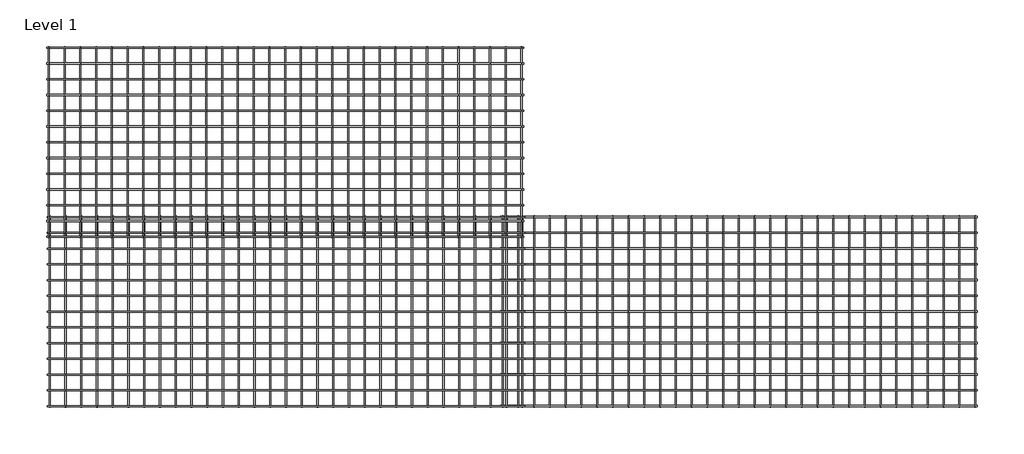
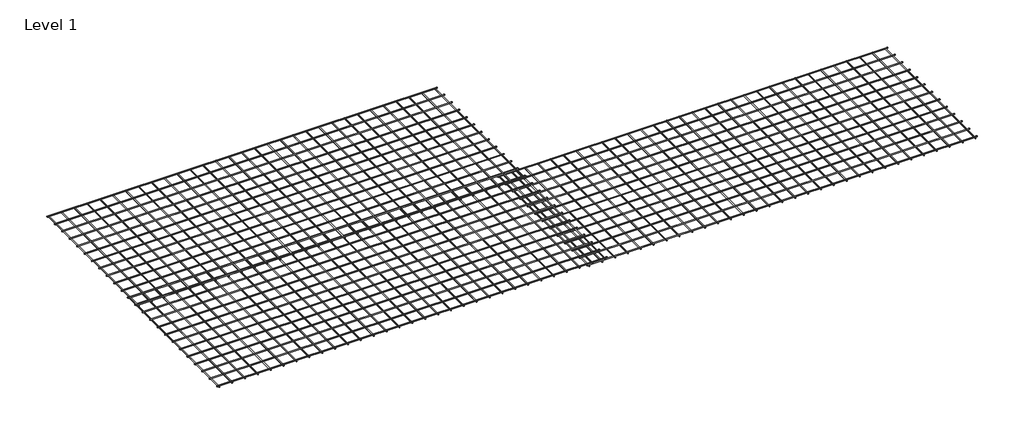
# One storey: 3 proxies.
"""IFC4 building model written with IfcOpenShell, lengths in millimetres."""

from ifc_helpers import new_model, si_unit, origin, place, context, project, spatial, transform, mapped, element, save
from components import united_steel_ductile_se72_large_mesh_united_steel_ductile_d334bcff

model = new_model("IFC4")

# Units and contexts
model_context = context("Model", 3, world=origin())
ifc_project = project(units=[si_unit("LENGTHUNIT", "METRE", prefix="MILLI")], contexts=[model_context])

# Site, building, storey
site = spatial("IfcSite", under=ifc_project)
building = spatial("IfcBuilding", under=site)
storey = spatial("IfcBuildingStorey", under=building, Name="Level 1", Elevation=0.0)

# Proxies
placement = place(None, origin())
united_steel_ductile_se72_large_mesh_united_steel_ductile_shape = united_steel_ductile_se72_large_mesh_united_steel_ductile_d334bcff(model_context)
element("IfcBuildingElementProxy", 1, Name="United Steel Ductile SE72 Large Mesh : United Steel Ductile SE72 Large Mesh", ObjectType="United Steel Ductile SE72 Large Mesh : United Steel Ductile SE72 Large Mesh", at=placement, inside=storey, context=model_context, shape_type="MappedRepresentation", body=[
    mapped(united_steel_ductile_se72_large_mesh_united_steel_ductile_shape, transform((5496.2856589, 2141.0032499, 76.875), x_axis=(1.0, 0.0, 0.0), y_axis=(0.0, 1.0, 0.0), z_axis=(0.0, 0.0, 1.0))),
])
element("IfcBuildingElementProxy", 2, Name="United Steel Ductile SE72 Large Mesh : United Steel Ductile SE72 Large Mesh", ObjectType="United Steel Ductile SE72 Large Mesh : United Steel Ductile SE72 Large Mesh", at=placement, inside=storey, context=model_context, shape_type="MappedRepresentation", body=[
    mapped(united_steel_ductile_se72_large_mesh_united_steel_ductile_shape, transform((5486.2856589, 4291.3824308, 105.0), x_axis=(1.0, 0.0, 0.0), y_axis=(0.0, 1.0, 0.0), z_axis=(0.0, 0.0, 1.0))),
])
element("IfcBuildingElementProxy", 3, Name="United Steel Ductile SE72 Large Mesh : United Steel Ductile SE72 Large Mesh", ObjectType="United Steel Ductile SE72 Large Mesh : United Steel Ductile SE72 Large Mesh", at=placement, inside=storey, context=model_context, shape_type="MappedRepresentation", body=[
    mapped(united_steel_ductile_se72_large_mesh_united_steel_ductile_shape, transform((11246.1955059, 2142.5757703, 48.75), x_axis=(1.0, 0.0, 0.0), y_axis=(0.0, 1.0, 0.0), z_axis=(0.0, 0.0, 1.0))),
])

save(model, "model.ifc")
